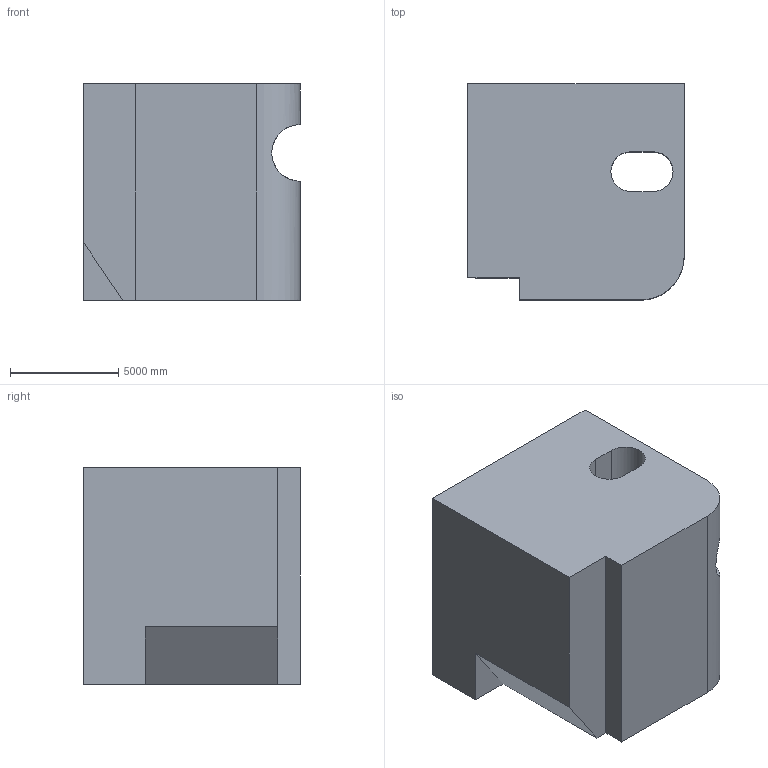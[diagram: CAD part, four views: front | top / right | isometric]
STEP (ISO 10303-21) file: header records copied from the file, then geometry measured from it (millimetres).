
FILE_DESCRIPTION (( 'STEP AP203' ), '1' );
FILE_NAME ('1579.STEP', '2022-08-18T15:55:52', ( 'user' ), ( '' ), 'SwSTEP 2.0', 'SolidWorks 2021', '' );
FILE_SCHEMA (( 'CONFIG_CONTROL_DESIGN' ));
Length unit declared in the file: centimetre
Products named in the file (1): 1579
Bounding box: 10000 x 10000 x 10000 mm (x, y, z)
Volume: 865880118656.8 mm3; surface area: 686924118.2 mm2
Topology: 1 solids, 1 shells, 23 faces, 65 edges, 44 vertices
Faces by surface type: plane 18, cylinder 5
Entity records: 1393 total; most frequent: CARTESIAN_POINT 701, ORIENTED_EDGE 130, DIRECTION 121, EDGE_CURVE 65, LINE 51, VECTOR 51, VERTEX_POINT 44, AXIS2_PLACEMENT_3D 35
